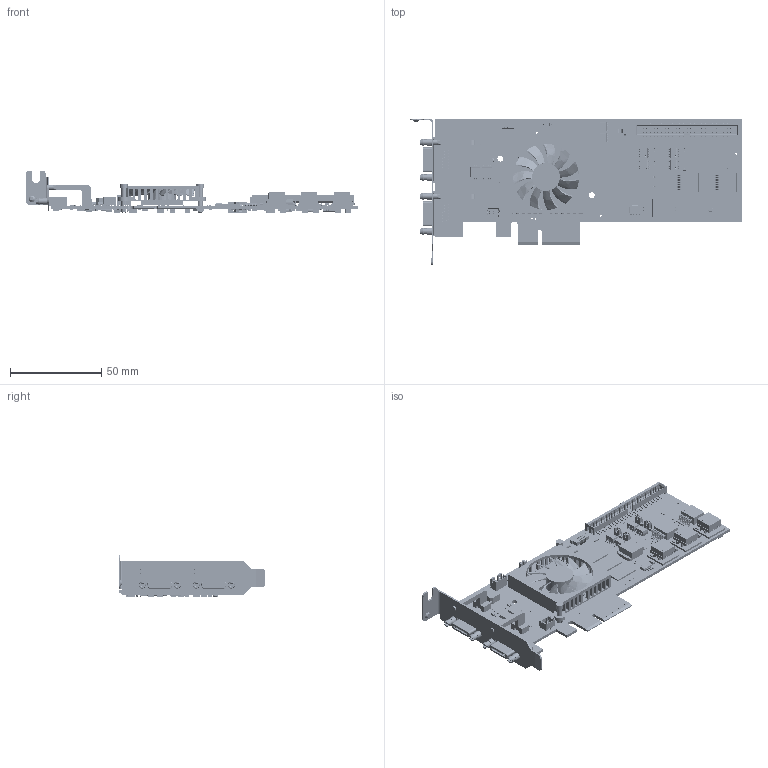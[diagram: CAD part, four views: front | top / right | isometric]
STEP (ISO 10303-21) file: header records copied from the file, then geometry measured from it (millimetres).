
FILE_DESCRIPTION( ( 'Unknown' ), '1' );
FILE_NAME( 'Q:/2003/Product3DModels/mm-ap20c08-0071-0201.stp', 'Unknown', ( 'Unknown' ), ( 'Unknown' ), 'PSStep 17.0.49', 'Unknown', ' ' );
FILE_SCHEMA( ( 'AUTOMOTIVE_DESIGN { 1 0 10303 214 1 1 1 1 }' ) );
Length unit declared in the file: millimetre
Products named in the file (577): SW3dPS-TO263-3S_453494225; SW3dPS-TO263-3S_Extruded17; SW3dPS-TO263-3S_453496017; SW3dPS-TO263-3S_Extruded18; SW3dPS-TO263-3S_453494353; SW3dPS-TO263-3S_Extruded15; SW3dPS-TO263-3S_Free-Models8; SW3dPS-TO263-3S_Free-Models9; SW3dPS-TO263-3S_BODY4; SW3dPS-TO263-3S_Board7; SW3dPS-TO263-3S_453496145; SW3dPS-TO263-3S_Extruded13; SW3dPS-TO263-3S_BODY5; SW3dPS-TO263-3S_Board6; SW3dPS-TO263-3S_Free-Models7; SW3dPS-TO263-3S_Free-Models6; SW3dPS-TO263-3S_450155089; SW3dPS-TO263-3S_Extruded19; SW3dPS-TO263-3S_450154961; SW3dPS-TO263-3S_Extruded11; SW3dPS-TO263-3S_BODY3; SW3dPS-TO263-3S_Board8; SW3dPS-TO263-3S_450155217; SW3dPS-TO263-3S_Extruded12; SW3dPS-TO263-3S_449923505; SW3dPS-TO263-3S_Cylinder1; SW3dPS-TO263-3S_450154833; SW3dPS-TO263-3S_Extruded21; SW3dPS-TO263-3S_450155473; SW3dPS-TO263-3S_Extruded20; SW3dPS-TO263-3S_PIN1; SW3dPS-TO263-3S_Board5; SW3dPS-TO263-3S_450156369; SW3dPS-TO263-3S_Extruded16; SW3dPS-TO263-3S_450155985; SW3dPS-TO263-3S_Extruded14; M16A_ASM_24_ASM; BODY_M16A_17; LEAD_M16A_42; SW3dPS-TO263-3S_Free-Models5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
Assembly tree (1026 placements, depth 10):
  Assem1
    Board
    L3-595
    L3-697
    G-493-243U  x5
    G-735-636M
    G-555-772D  x4
    J14
      ZF5S-10-01-X-WT
    U34
      SOT223-5
    RP36
      TC164
    RP35
      TC164
    RP34
      TC164
    R69
      CR1005-0402
    R57
      CR1005-0402
    C44
      RES_0603-0201
    SP23
      SLP1616P6
      1059565944
        Extruded
    U28
      DRC_(S-PVSON-N10)
        User_Library-DRC_(S-PVSON-N10)-1_DRC_Koerper
        User_Library-DRC_(S-PVSON-N10)-1_DRC_PINS
    U27
      DRC_(S-PVSON-N10)
        User_Library-DRC_(S-PVSON-N10)-1_DRC_Koerper
        User_Library-DRC_(S-PVSON-N10)-1_DRC_PINS
    R188
      CR1005-0402
    R187
      CR1005-0402
    R185
      LVK12
    R184
      CR1005-0402
    R183
      LVK12
    L6
      CR1608-0603
    L2
      CR1608-0603
    U39
      1059564856
        Extruded
    U38
      1059564856
        Extruded
    R67
      CR1005-0402
    R66
      CR1005-0402
    R65
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Bounding box: 181.55 x 80.29 x 23.28 mm (x, y, z)
Surface area: 54453.9 mm2 (no closed solid volume)
Topology: 0 solids, 18319 shells, 18319 faces, 95445 edges, 95024 vertices
Faces by surface type: plane 14470, cylinder 3212, sphere 274, extrusion 264, bspline 64, cone 19, torus 16
Full cylindrical faces by diameter (mm): 0.127 x12, 0.4 x2, 0.432 x4, 0.5 x2, 0.527 x1, 0.65 x52, 0.7 x2, 0.8 x20, 1 x1, 1.1 x3, 1.194 x4, 1.567 x4, 2 x4, 2.013 x4, 2.3 x4, 2.7 x4, 2.8 x4, 3 x2, 3.2 x8, 3.8 x8, 4.1 x2, 6.696 x1, 6.7 x1, 15.2 x1, 37 x1, 37.24 x1
Entity records: 453136 total; most frequent: CARTESIAN_POINT 95253, DIRECTION 60268, VERTEX_POINT 38312, ORIENTED_EDGE 38310, EDGE_CURVE 38310, VECTOR 31934, LINE 31854, AXIS2_PLACEMENT_3D 14167
